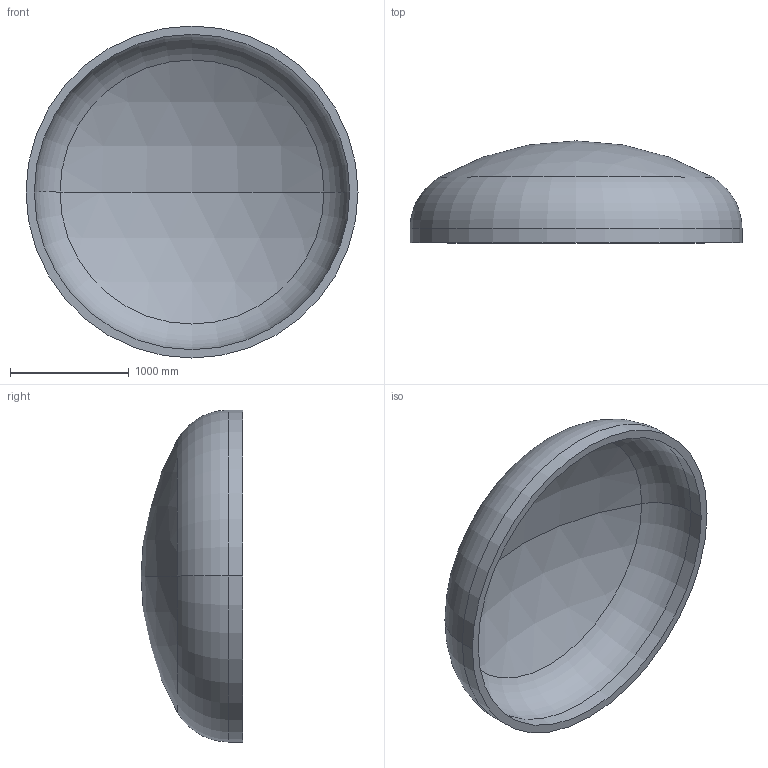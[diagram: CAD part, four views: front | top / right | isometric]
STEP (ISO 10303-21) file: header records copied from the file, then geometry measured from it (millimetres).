
FILE_DESCRIPTION (( 'STEP AP203' ), '1' );
FILE_NAME ('DIN 28013 Korbbogenform_-_Boden DIN 28013 - 2800 x 120 - I - s=70.step', '2016-07-01T17:09:21', ( '' ), ( '' ), 'SwSTEP 2.0', 'SolidWorks 2013', '' );
FILE_SCHEMA (( 'CONFIG_CONTROL_DESIGN' ));
Length unit declared in the file: millimetre
Products named in the file (1): DIN 28013 Korbbogenform_-_Boden DIN 28013 - 2800 x 120 - I - s=70
Bounding box: 2800 x 859.62 x 2800 mm (x, y, z)
Volume: 649430104.9 mm3; surface area: 19165760.7 mm2
Topology: 1 solids, 1 shells, 13 faces, 24 edges, 14 vertices
Faces by surface type: torus 4, cylinder 4, sphere 4, plane 1
Entity records: 407 total; most frequent: DIRECTION 72, CARTESIAN_POINT 52, ORIENTED_EDGE 48, AXIS2_PLACEMENT_3D 34, EDGE_CURVE 24, CIRCLE 20, VERTEX_POINT 14, EDGE_LOOP 14
